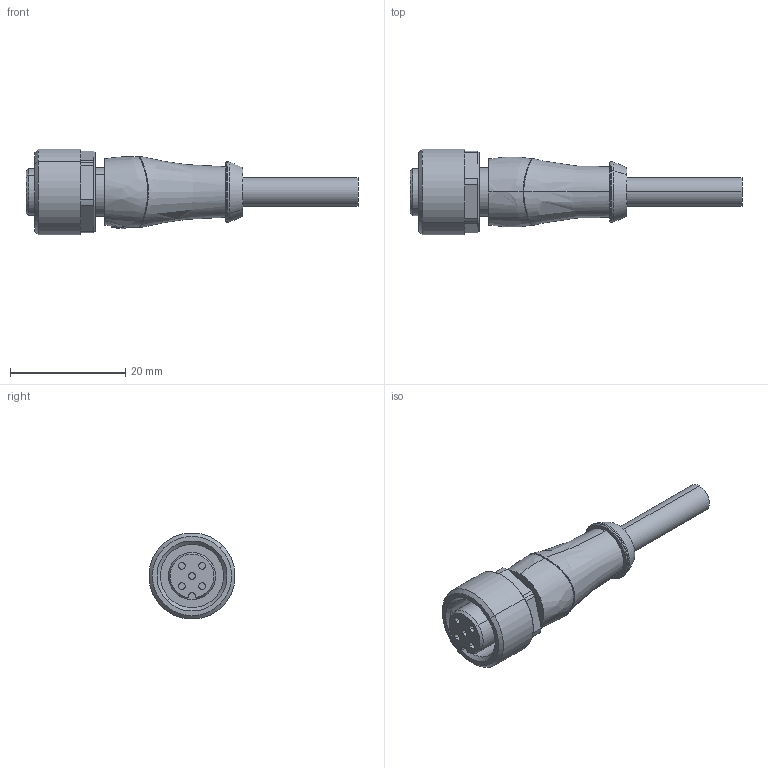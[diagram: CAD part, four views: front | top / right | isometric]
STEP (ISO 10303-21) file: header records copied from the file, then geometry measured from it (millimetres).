
FILE_DESCRIPTION (( 'STEP AP214' ), '1' );
FILE_NAME ('YF2A1x-xxxxxxXLEAX-S222869.STEP', '2018-02-20T16:59:36', ( 'CD IT' ), ( 'SICK AG' ), 'SwSTEP 2.0', 'SolidWorks 2016', '' );
FILE_SCHEMA (( 'AUTOMOTIVE_DESIGN' ));
Length unit declared in the file: millimetre
Products named in the file (1): YF2A1x-xxxxxxXLEAX-S222869
Bounding box: 57.7 x 14.94 x 14.94 mm (x, y, z)
Volume: 4059.9 mm3; surface area: 2679.1 mm2
Topology: 1 solids, 1 shells, 98 faces, 230 edges, 146 vertices
Faces by surface type: plane 32, cylinder 30, bspline 14, cone 14, torus 8
Entity records: 7318 total; most frequent: CARTESIAN_POINT 4028, ORIENTED_EDGE 460, DIRECTION 439, EDGE_CURVE 230, AXIS2_PLACEMENT_3D 184, VERTEX_POINT 146, EDGE_LOOP 110, UNCERTAINTY_MEASURE_WITH_UNIT 101
